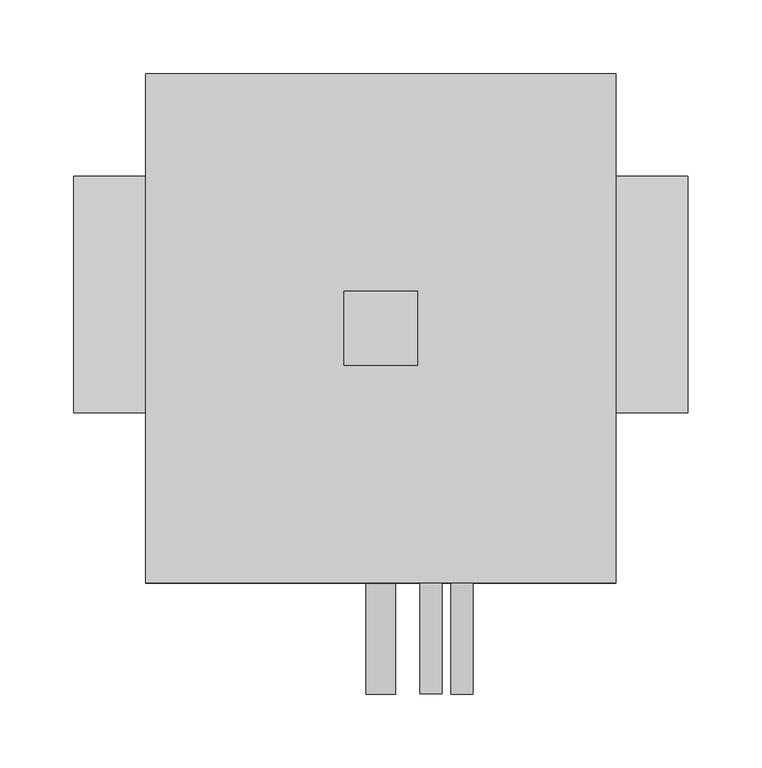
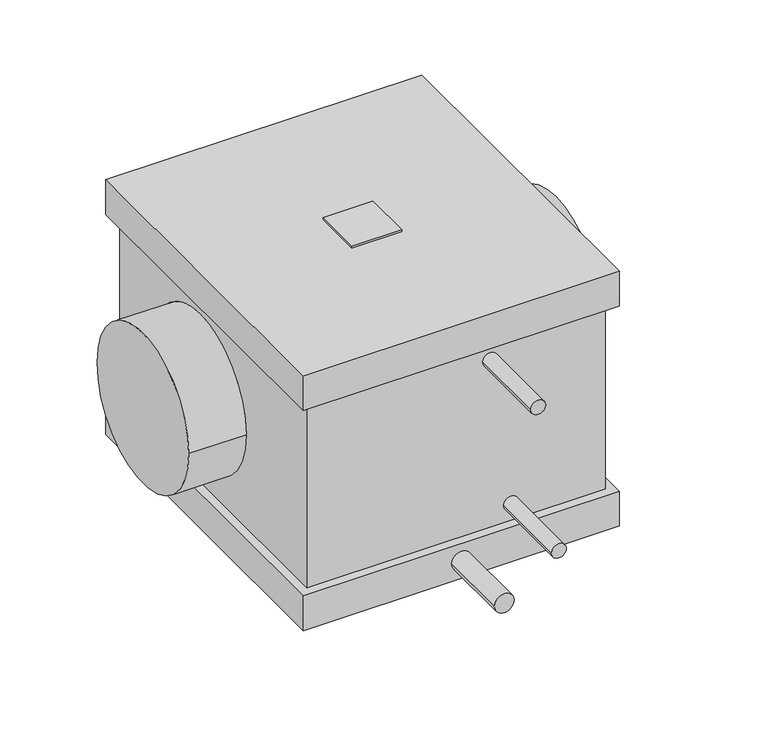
"""IFC4 building model written with IfcOpenShell, lengths in millimetres: proxy geometry, KORF_Охладитель_Водяной_Круглый_Левый_KWLO : KWLO 160/2."""

from ifc_helpers import new_model, si_unit, point, frame, frame_2d, origin, place, context, project, spatial, polyline, circle_curve, trimmed, segment, composite_curve, outline, extrude, source, transform, mapped, element, save
from ifc_brep_helpers import plane_surface, cylinder_surface, advanced_brep


def mechanical_equipment_61299fc9(model_context):
    return source(origin(), model_context, "Body", "SolidModel", [
        extrude(outline(polyline([(232.5, 2.0), (232.5, -48.0), (182.5, -48.0), (182.5, 2.0), (232.5, 2.0)])), frame((0.0, 0.0, 135.5), z_axis=(0.0, 0.0, 1.0), x_axis=(1.0, 0.0, 0.0)), (0.0, 0.0, 1.0), 2.0),
        advanced_brep(
        [(415.0, -80.0, 0.0), (415.0, 80.0, 0.0), (0.0, -80.0, 0.0), (0.0, 80.0, 0.0), (357.5, -80.0, 0.0), (357.5, 80.0, 0.0), (57.5, 80.0, 0.0), (57.5, -80.0, 0.0), (357.5, -186.0, -98.5), (357.5, 140.0, -98.5), (357.5, 140.0, 98.5), (357.5, -186.0, 98.5), (57.5, 140.0, -98.5), (57.5, -186.0, -98.5), (57.5, -186.0, 98.5), (57.5, 140.0, 98.5), (366.5, 149.0, -135.5), (366.5, -195.0, -135.5), (48.5, -195.0, -135.5), (48.5, 149.0, -135.5), (366.5, -195.0, 135.5), (366.5, 149.0, 135.5), (48.5, 149.0, 135.5), (48.5, -195.0, 135.5), (366.5, 149.0, -98.5), (366.5, -195.0, -98.5), (48.5, -195.0, -98.5), (48.5, 149.0, -98.5), (366.5, 149.0, 98.5), (366.5, -195.0, 98.5), (48.5, -195.0, 98.5), (48.5, 149.0, 98.5)],
        [
            (0, 1, circle_curve(frame((415.0, 0.0, 0.0), z_axis=(1.0, 0.0, 0.0), x_axis=(0.0, 1.0, 0.0)), 80.0)),
            (1, 0, circle_curve(frame((415.0, 0.0, 0.0), z_axis=(1.0, 0.0, 0.0), x_axis=(0.0, 1.0, 0.0)), 80.0)),
            (2, 3, circle_curve(frame((0.0, 0.0, 0.0), z_axis=(-1.0, 0.0, 0.0), x_axis=(0.0, 1.0, 0.0)), 80.0)),
            (3, 2, circle_curve(frame((0.0, 0.0, 0.0), z_axis=(-1.0, 0.0, 0.0), x_axis=(0.0, 1.0, 0.0)), 80.0)),
            (0, 4),
            (4, 5, circle_curve(frame((357.5, 0.0, 0.0), z_axis=(1.0, 0.0, 0.0), x_axis=(0.0, 1.0, 0.0)), 80.0)),
            (5, 1),
            (3, 6),
            (6, 7, circle_curve(frame((57.5, 0.0, 0.0), z_axis=(-1.0, 0.0, 0.0), x_axis=(0.0, 1.0, 0.0)), 80.0)),
            (7, 2),
            (5, 4, circle_curve(frame((357.5, 0.0, 0.0), z_axis=(1.0, 0.0, 0.0), x_axis=(0.0, 1.0, 0.0)), 80.0)),
            (7, 6, circle_curve(frame((57.5, 0.0, 0.0), z_axis=(-1.0, 0.0, 0.0), x_axis=(0.0, 1.0, 0.0)), 80.0)),
            (8, 9),
            (9, 10),
            (10, 11),
            (11, 8),
            (12, 13),
            (13, 14),
            (14, 15),
            (15, 12),
            (13, 8),
            (11, 14),
            (16, 17),
            (17, 18),
            (18, 19),
            (19, 16),
            (9, 12),
            (15, 10),
            (20, 21),
            (21, 22),
            (22, 23),
            (23, 20),
            (16, 24),
            (24, 25),
            (25, 17),
            (25, 26),
            (26, 18),
            (26, 27),
            (27, 19),
            (24, 27),
            (28, 21),
            (20, 29),
            (29, 28),
            (23, 30),
            (30, 29),
            (22, 31),
            (31, 30),
            (28, 31),
        ],
        [
            plane_surface(frame((415.0, 80.0, 0.0), z_axis=(1.0, 0.0, 0.0), x_axis=(0.0, 0.0, 1.0))),
            plane_surface(frame((0.0, 80.0, 0.0), z_axis=(-1.0, 0.0, 0.0), x_axis=(0.0, 0.0, -1.0))),
            cylinder_surface(frame((0.0, 0.0, 0.0), z_axis=(1.0, 0.0, 0.0), x_axis=(0.0, 1.0, 0.0)), 80.0),
            plane_surface(frame((357.5, -186.0, 135.5), z_axis=(1.0, 0.0, 0.0), x_axis=(0.0, 0.0, -1.0))),
            plane_surface(frame((57.5, -186.0, 135.5), z_axis=(-1.0, 0.0, 0.0), x_axis=(0.0, 0.0, 1.0))),
            plane_surface(frame((357.5, -186.0, 135.5), z_axis=(0.0, -1.0, 0.0), x_axis=(-1.0, 0.0, 0.0))),
            plane_surface(frame((357.5, -186.0, -135.5), z_axis=(0.0, 0.0, -1.0), x_axis=(-1.0, 0.0, 0.0))),
            plane_surface(frame((357.5, 140.0, -135.5), z_axis=(0.0, 1.0, 0.0), x_axis=(-1.0, 0.0, 0.0))),
            plane_surface(frame((357.5, 140.0, 135.5), z_axis=(0.0, 0.0, 1.0), x_axis=(-1.0, 0.0, 0.0))),
            plane_surface(frame((366.5, 149.0, -98.5), z_axis=(1.0, 0.0, 0.0), x_axis=(0.0, -1.0, 0.0))),
            plane_surface(frame((366.5, -195.0, -98.5), z_axis=(0.0, -1.0, 0.0), x_axis=(-1.0, 0.0, 0.0))),
            plane_surface(frame((48.5, -195.0, -98.5), z_axis=(-1.0, 0.0, 0.0), x_axis=(0.0, 1.0, 0.0))),
            plane_surface(frame((57.5, 140.0, -98.5), z_axis=(0.0, 0.0, 1.0), x_axis=(1.0, 0.0, 0.0))),
            plane_surface(frame((48.5, 149.0, -98.5), z_axis=(0.0, 1.0, 0.0), x_axis=(1.0, 0.0, 0.0))),
            plane_surface(frame((366.5, 149.0, 135.5), z_axis=(1.0, 0.0, 0.0), x_axis=(0.0, -1.0, 0.0))),
            plane_surface(frame((366.5, -195.0, 135.5), z_axis=(0.0, -1.0, 0.0), x_axis=(-1.0, 0.0, 0.0))),
            plane_surface(frame((48.5, -195.0, 135.5), z_axis=(-1.0, 0.0, 0.0), x_axis=(0.0, 1.0, 0.0))),
            plane_surface(frame((48.5, 149.0, 135.5), z_axis=(0.0, 1.0, 0.0), x_axis=(1.0, 0.0, 0.0))),
            plane_surface(frame((48.5, 149.0, 98.5), z_axis=(0.0, 0.0, -1.0), x_axis=(1.0, 0.0, 0.0))),
        ],
        [
            (0, [[1, 2]]),
            (1, [[3, 4]]),
            (2, [[-1, 5, 6, 7]]),
            (2, [[-4, 8, 9, 10]]),
            (2, [[-2, -7, 11, -5]]),
            (2, [[-3, -10, 12, -8]]),
            (3, [[13, 14, 15, 16], [-6, -11]]),
            (4, [[17, 18, 19, 20], [-9, -12]]),
            (5, [[21, -16, 22, -18]]),
            (6, [[23, 24, 25, 26]]),
            (7, [[27, -20, 28, -14]]),
            (8, [[29, 30, 31, 32]]),
            (9, [[33, 34, 35, -23]]),
            (10, [[-35, 36, 37, -24]]),
            (11, [[-37, 38, 39, -25]]),
            (12, [[-34, 40, -38, -36], [-13, -21, -17, -27]]),
            (13, [[-33, -26, -39, -40]]),
            (14, [[41, -29, 42, 43]]),
            (15, [[-42, -32, 44, 45]]),
            (16, [[-44, -31, 46, 47]]),
            (17, [[-41, 48, -46, -30]]),
            (18, [[-43, -45, -47, -48], [-15, -28, -19, -22]]),
        ],
    ),
        extrude(outline(composite_curve([segment(trimmed(circle_curve(frame_2d((-80.0, 262.5)), 7.5), [point((-80.0, 255.0))], [point((-80.0, 270.0))], False, "CARTESIAN"), True, "CONTINUOUS"), segment(trimmed(circle_curve(frame_2d((-80.0, 262.5)), 7.5), [point((-80.0, 270.0))], [point((-80.0, 255.0))], False, "CARTESIAN"), True, "CONTINUOUS")], self_intersect=False)), frame((0.0, -270.0, 0.0), z_axis=(0.0, 1.0, 0.0), x_axis=(0.0, 0.0, 1.0)), (0.0, 0.0, 1.0), 84.0),
        extrude(outline(composite_curve([segment(trimmed(circle_curve(frame_2d((80.0, 241.5)), 7.5), [point((80.0, 234.0))], [point((80.0, 249.0))], False, "CARTESIAN"), True, "CONTINUOUS"), segment(trimmed(circle_curve(frame_2d((80.0, 241.5)), 7.5), [point((80.0, 249.0))], [point((80.0, 234.0))], False, "CARTESIAN"), True, "CONTINUOUS")], self_intersect=False)), frame((0.0, -270.0, 0.0), z_axis=(0.0, 1.0, 0.0), x_axis=(0.0, 0.0, 1.0)), (0.0, 0.0, 1.0), 84.0),
        extrude(outline(composite_curve([segment(trimmed(circle_curve(frame_2d((-116.5, 207.5)), 10.0), [point((-116.5, 197.5))], [point((-116.5, 217.5))], False, "CARTESIAN"), True, "CONTINUOUS"), segment(trimmed(circle_curve(frame_2d((-116.5, 207.5)), 10.0), [point((-116.5, 217.5))], [point((-116.5, 197.5))], False, "CARTESIAN"), True, "CONTINUOUS")], self_intersect=False)), frame((0.0, -270.0, 0.0), z_axis=(0.0, 1.0, 0.0), x_axis=(0.0, 0.0, 1.0)), (0.0, 0.0, 1.0), 75.0),
    ])


if __name__ == "__main__":
    model = new_model("IFC4")
    model_context = context("Model", 3, world=origin())
    ifc_project = project(units=[si_unit("LENGTHUNIT", "METRE", prefix="MILLI")], contexts=[model_context])
    site = spatial("IfcSite", under=ifc_project)
    building = spatial("IfcBuilding", under=site)
    placement = place(None, origin())
    mechanical_equipment_shape = mechanical_equipment_61299fc9(model_context)
    element("IfcBuildingElementProxy", 1, Name="KORF_Охладитель_Водяной_Круглый_Левый_KWLO : KWLO 160/2", ObjectType="KORF_Охладитель_Водяной_Круглый_Левый_KWLO : KWLO 160/2", at=placement, inside=building, context=model_context, shape_type="MappedRepresentation", body=[
        mapped(mechanical_equipment_shape, transform((0.0, 0.0, 0.0), x_axis=(1.0, 0.0, 0.0), y_axis=(0.0, 1.0, 0.0), z_axis=(0.0, 0.0, 1.0))),
    ])
    save(model, "model.ifc")
